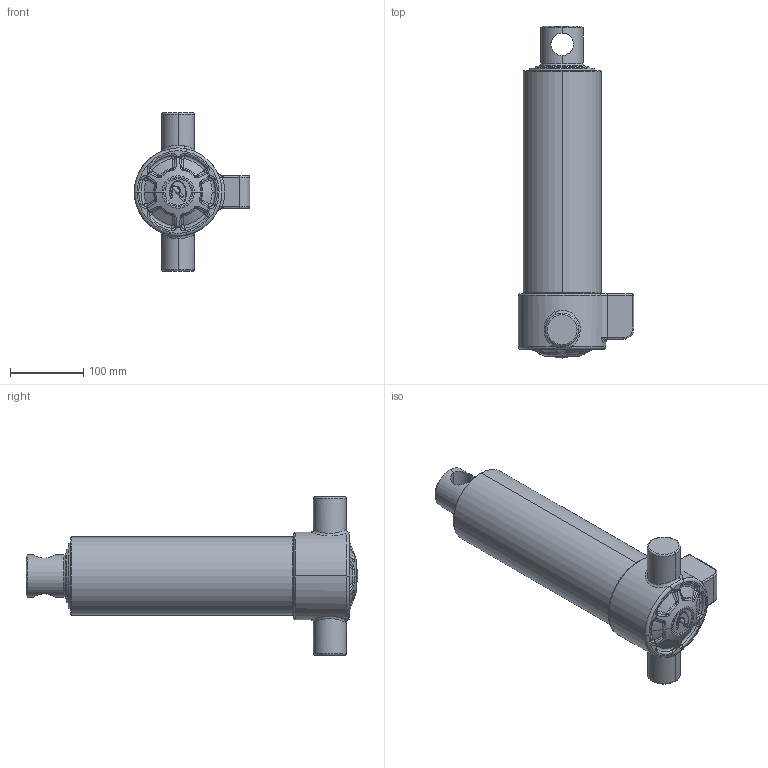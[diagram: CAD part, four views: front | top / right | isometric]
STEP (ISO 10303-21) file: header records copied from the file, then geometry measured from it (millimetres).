
FILE_DESCRIPTION (( 'STEP AP203' ), '1' );
FILE_NAME ('307.BZTOU1.STEP', '2012-10-18T07:29:14', ( '' ), ( '' ), 'SwSTEP 2.0', 'SolidWorks 2007', '' );
FILE_SCHEMA (( 'CONFIG_CONTROL_DESIGN' ));
Length unit declared in the file: millimetre
Products named in the file (1): 307.BZTOU1
Bounding box: 158 x 454.64 x 217 mm (x, y, z)
Surface area: 446763.3 mm2 (no closed solid volume)
Topology: 0 solids, 15 shells, 285 faces, 761 edges, 480 vertices
Faces by surface type: bspline 114, cylinder 59, torus 58, cone 29, plane 23, sphere 2
Entity records: 15949 total; most frequent: CARTESIAN_POINT 9510, ORIENTED_EDGE 1369, DIRECTION 1247, EDGE_CURVE 756, AXIS2_PLACEMENT_3D 573, VERTEX_POINT 480, CIRCLE 401, EDGE_LOOP 303
